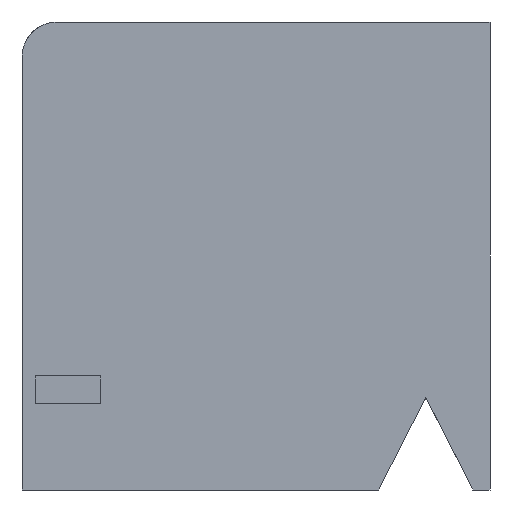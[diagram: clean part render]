
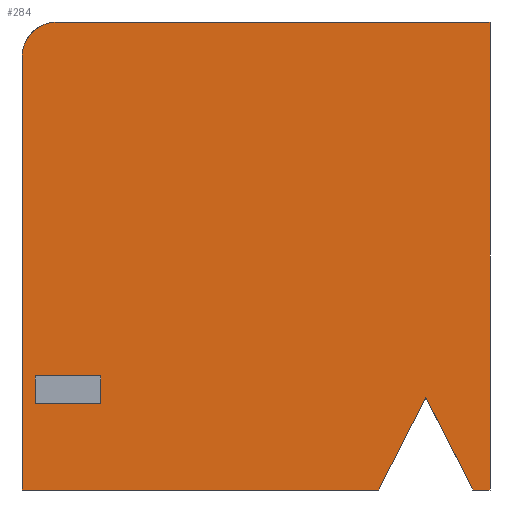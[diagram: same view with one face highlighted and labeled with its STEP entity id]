
A CAD part, front view. The second image highlights one B-rep face of the part: STEP entity #284.
In plain terms, the highlighted planar face has unit normal (0, -1, 0).
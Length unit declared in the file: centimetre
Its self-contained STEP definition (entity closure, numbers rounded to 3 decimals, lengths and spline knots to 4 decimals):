
#5 = VECTOR ( 'NONE', #423, 100. ) ;
#10 = ORIENTED_EDGE ( 'NONE', *, *, #836, .T. ) ;
#27 = VERTEX_POINT ( 'NONE', #1190 ) ;
#35 = EDGE_LOOP ( 'NONE', ( #101, #1347, #899, #857 ) ) ;
#60 = CARTESIAN_POINT ( 'NONE',  ( 0., 0., 0. ) ) ;
#72 = CARTESIAN_POINT ( 'NONE',  ( 1000., 0., 0. ) ) ;
#98 = ORIENTED_EDGE ( 'NONE', *, *, #1403, .F. ) ;
#100 = LINE ( 'NONE', #852, #475 ) ;
#101 = ORIENTED_EDGE ( 'NONE', *, *, #144, .F. ) ;
#131 = DIRECTION ( 'NONE',  ( 1., 0., 0. ) ) ;
#137 = LINE ( 'NONE', #1147, #813 ) ;
#144 = EDGE_CURVE ( 'NONE', #759, #908, #281, .T. ) ;
#150 = CARTESIAN_POINT ( 'NONE',  ( 0., 0., 1000. ) ) ;
#176 = DIRECTION ( 'NONE',  ( 1., 0., 0. ) ) ;
#180 = VECTOR ( 'NONE', #961, 100. ) ;
#183 = PLANE ( 'NONE',  #1055 ) ;
#186 = EDGE_CURVE ( 'NONE', #27, #441, #505, .T. ) ;
#194 = CARTESIAN_POINT ( 'NONE',  ( 963.55, 0., 0. ) ) ;
#198 = EDGE_LOOP ( 'NONE', ( #203, #435, #474, #98, #1398, #599, #454, #10 ) ) ;
#203 = ORIENTED_EDGE ( 'NONE', *, *, #1244, .T. ) ;
#212 = CARTESIAN_POINT ( 'NONE',  ( 0., 0., 1000. ) ) ;
#231 = VECTOR ( 'NONE', #1132, 100. ) ;
#250 = CARTESIAN_POINT ( 'NONE',  ( 168.1506, 0., 184.9259 ) ) ;
#253 = VECTOR ( 'NONE', #131, 100. ) ;
#259 = EDGE_CURVE ( 'NONE', #1126, #364, #329, .T. ) ;
#276 = EDGE_CURVE ( 'NONE', #27, #810, #981, .T. ) ;
#281 = LINE ( 'NONE', #846, #640 ) ;
#284 = ADVANCED_FACE ( 'NONE', ( #1207, #749 ), #183, .F. ) ;
#303 = CARTESIAN_POINT ( 'NONE',  ( 1000., 0., 1000. ) ) ;
#321 = CARTESIAN_POINT ( 'NONE',  ( 0., 0., 0. ) ) ;
#325 = LINE ( 'NONE', #1240, #253 ) ;
#329 = LINE ( 'NONE', #321, #5 ) ;
#348 = EDGE_CURVE ( 'NONE', #810, #695, #871, .T. ) ;
#356 = EDGE_CURVE ( 'NONE', #908, #1082, #100, .T. ) ;
#364 = VERTEX_POINT ( 'NONE', #72 ) ;
#375 = VERTEX_POINT ( 'NONE', #408 ) ;
#408 = CARTESIAN_POINT ( 'NONE',  ( 762.1603, 0., 0. ) ) ;
#423 = DIRECTION ( 'NONE',  ( 1., 0., 0. ) ) ;
#435 = ORIENTED_EDGE ( 'NONE', *, *, #1304, .T. ) ;
#437 = DIRECTION ( 'NONE',  ( 0., 0., 1. ) ) ;
#441 = VERTEX_POINT ( 'NONE', #884 ) ;
#454 = ORIENTED_EDGE ( 'NONE', *, *, #348, .T. ) ;
#465 = VECTOR ( 'NONE', #706, 100. ) ;
#474 = ORIENTED_EDGE ( 'NONE', *, *, #259, .T. ) ;
#475 = VECTOR ( 'NONE', #437, 100. ) ;
#481 = VERTEX_POINT ( 'NONE', #920 ) ;
#502 = CARTESIAN_POINT ( 'NONE',  ( 168.1506, 0., 243.7031 ) ) ;
#505 = LINE ( 'NONE', #150, #1215 ) ;
#522 = LINE ( 'NONE', #303, #180 ) ;
#540 = CARTESIAN_POINT ( 'NONE',  ( 0., 0., 1000. ) ) ;
#599 = ORIENTED_EDGE ( 'NONE', *, *, #276, .T. ) ;
#601 = CARTESIAN_POINT ( 'NONE',  ( 862.8552, 0., 197.0284 ) ) ;
#624 = DIRECTION ( 'NONE',  ( 1., 0., 0. ) ) ;
#640 = VECTOR ( 'NONE', #176, 100. ) ;
#647 = DIRECTION ( 'NONE',  ( 0., 0., 1. ) ) ;
#677 = CARTESIAN_POINT ( 'NONE',  ( 28.3596, 0., 184.9259 ) ) ;
#695 = VERTEX_POINT ( 'NONE', #60 ) ;
#706 = DIRECTION ( 'NONE',  ( 0.455, 0., -0.89 ) ) ;
#749 = FACE_OUTER_BOUND ( 'NONE', #198, .T. ) ;
#759 = VERTEX_POINT ( 'NONE', #677 ) ;
#798 = VECTOR ( 'NONE', #979, 100. ) ;
#810 = VERTEX_POINT ( 'NONE', #1432 ) ;
#813 = VECTOR ( 'NONE', #1248, 100. ) ;
#836 = EDGE_CURVE ( 'NONE', #695, #375, #325, .T. ) ;
#846 = CARTESIAN_POINT ( 'NONE',  ( 28.3596, 0., 184.9259 ) ) ;
#852 = CARTESIAN_POINT ( 'NONE',  ( 168.1506, 0., 184.9259 ) ) ;
#857 = ORIENTED_EDGE ( 'NONE', *, *, #356, .F. ) ;
#866 = CARTESIAN_POINT ( 'NONE',  ( 74.8597, 0., 925.1403 ) ) ;
#871 = LINE ( 'NONE', #540, #798 ) ;
#883 = EDGE_CURVE ( 'NONE', #1082, #481, #1344, .T. ) ;
#884 = CARTESIAN_POINT ( 'NONE',  ( 1000., 0., 1000. ) ) ;
#899 = ORIENTED_EDGE ( 'NONE', *, *, #883, .F. ) ;
#907 = EDGE_CURVE ( 'NONE', #481, #759, #137, .T. ) ;
#908 = VERTEX_POINT ( 'NONE', #250 ) ;
#918 = VERTEX_POINT ( 'NONE', #601 ) ;
#920 = CARTESIAN_POINT ( 'NONE',  ( 28.3596, 0., 243.7031 ) ) ;
#921 = DIRECTION ( 'NONE',  ( -1., 0., 0. ) ) ;
#943 = CARTESIAN_POINT ( 'NONE',  ( 862.8552, 0., 197.0284 ) ) ;
#961 = DIRECTION ( 'NONE',  ( 0., 0., -1. ) ) ;
#979 = DIRECTION ( 'NONE',  ( 0., 0., -1. ) ) ;
#981 = CIRCLE ( 'NONE', #1167, 74.8597 ) ;
#997 = LINE ( 'NONE', #1236, #231 ) ;
#1055 = AXIS2_PLACEMENT_3D ( 'NONE', #212, #1199, #1191 ) ;
#1082 = VERTEX_POINT ( 'NONE', #502 ) ;
#1126 = VERTEX_POINT ( 'NONE', #194 ) ;
#1132 = DIRECTION ( 'NONE',  ( 0.455, 0., 0.89 ) ) ;
#1141 = CARTESIAN_POINT ( 'NONE',  ( 28.3596, 0., 243.7031 ) ) ;
#1147 = CARTESIAN_POINT ( 'NONE',  ( 28.3596, 0., 184.9259 ) ) ;
#1167 = AXIS2_PLACEMENT_3D ( 'NONE', #866, #1310, #647 ) ;
#1190 = CARTESIAN_POINT ( 'NONE',  ( 74.8597, 0., 1000. ) ) ;
#1191 = DIRECTION ( 'NONE',  ( 0., 0., 1. ) ) ;
#1199 = DIRECTION ( 'NONE',  ( 0., 1., 0. ) ) ;
#1207 = FACE_BOUND ( 'NONE', #35, .T. ) ;
#1215 = VECTOR ( 'NONE', #624, 100. ) ;
#1236 = CARTESIAN_POINT ( 'NONE',  ( 762.1603, 0., 0. ) ) ;
#1240 = CARTESIAN_POINT ( 'NONE',  ( 0., 0., 0. ) ) ;
#1244 = EDGE_CURVE ( 'NONE', #375, #918, #997, .T. ) ;
#1248 = DIRECTION ( 'NONE',  ( 0., 0., -1. ) ) ;
#1304 = EDGE_CURVE ( 'NONE', #918, #1126, #1371, .T. ) ;
#1310 = DIRECTION ( 'NONE',  ( 0., -1., 0. ) ) ;
#1344 = LINE ( 'NONE', #1141, #1392 ) ;
#1347 = ORIENTED_EDGE ( 'NONE', *, *, #907, .F. ) ;
#1371 = LINE ( 'NONE', #943, #465 ) ;
#1392 = VECTOR ( 'NONE', #921, 100. ) ;
#1398 = ORIENTED_EDGE ( 'NONE', *, *, #186, .F. ) ;
#1403 = EDGE_CURVE ( 'NONE', #441, #364, #522, .T. ) ;
#1432 = CARTESIAN_POINT ( 'NONE',  ( 0., 0., 925.1403 ) ) ;
